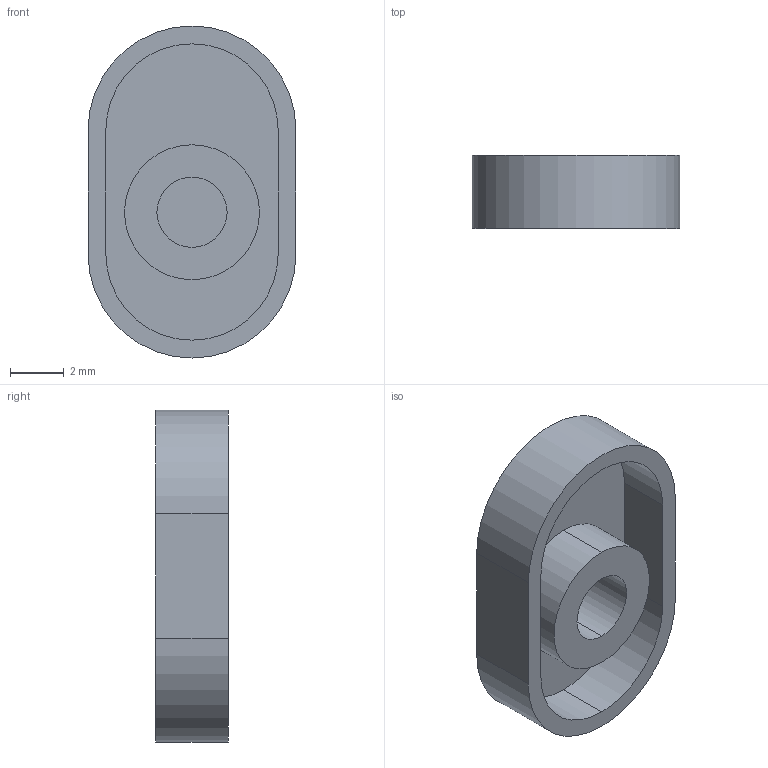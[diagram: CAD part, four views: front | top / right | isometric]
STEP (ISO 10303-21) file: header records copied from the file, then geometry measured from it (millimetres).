
FILE_DESCRIPTION (( 'STEP AP214' ), '1' );
FILE_NAME ('Boto negra PP66.STEP', '2017-12-18T09:15:22', ( 'aaa' ), ( '' ), 'SwSTEP 2.0', 'SolidWorks 2013', '' );
FILE_SCHEMA (( 'AUTOMOTIVE_DESIGN' ));
Length unit declared in the file: millimetre
Products named in the file (1): Boto negra PP66
Bounding box: 7.7 x 2.7 x 12.3 mm (x, y, z)
Volume: 127.4 mm3; surface area: 360.4 mm2
Topology: 1 solids, 1 shells, 19 faces, 42 edges, 28 vertices
Faces by surface type: cylinder 10, plane 9
Entity records: 570 total; most frequent: DIRECTION 102, CARTESIAN_POINT 90, ORIENTED_EDGE 84, EDGE_CURVE 42, AXIS2_PLACEMENT_3D 40, VERTEX_POINT 28, EDGE_LOOP 22, LINE 22
